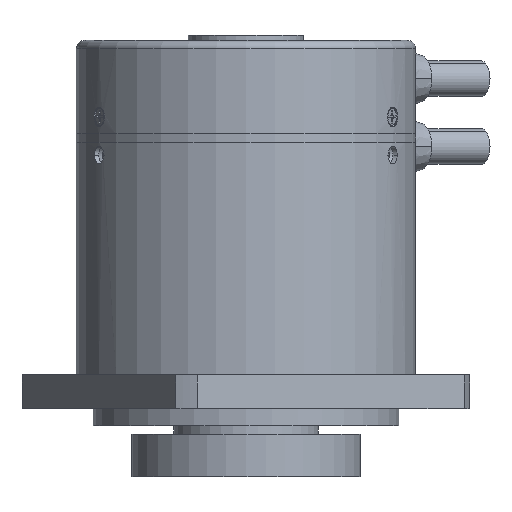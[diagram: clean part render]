
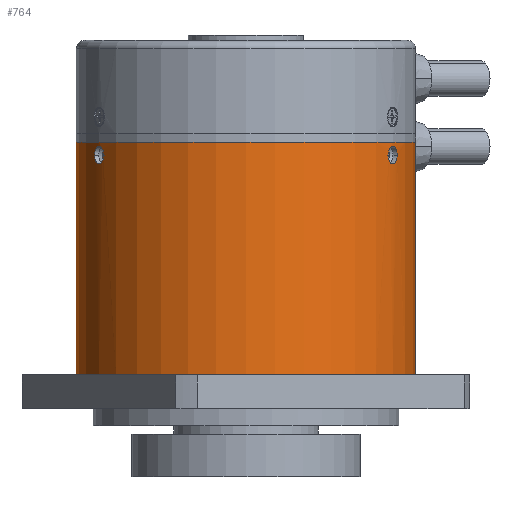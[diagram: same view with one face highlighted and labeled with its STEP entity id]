
A CAD part, front view. The second image highlights one B-rep face of the part: STEP entity #764.
In plain terms, the highlighted cylindrical face has radius 20 mm (diameter 40 mm), a partial arc.
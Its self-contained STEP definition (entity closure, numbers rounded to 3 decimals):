
#764=ADVANCED_FACE('',(#1238,#1239,#1240),#1241,.T.);
#1238=FACE_BOUND('',#2224,.T.);
#1239=FACE_BOUND('',#2225,.T.);
#1240=FACE_OUTER_BOUND('',#2226,.T.);
#1241=CYLINDRICAL_SURFACE('',#2227,20.0);
#2224=EDGE_LOOP('',(#3337,#3338));
#2225=EDGE_LOOP('',(#3339,#3340));
#2226=EDGE_LOOP('',(#3341,#3342,#3343,#3344,#3345,#3346));
#2227=AXIS2_PLACEMENT_3D('',#3347,#3348,#3349);
#3337=ORIENTED_EDGE('',*,*,#6923,.T.);
#3338=ORIENTED_EDGE('',*,*,#6924,.T.);
#3339=ORIENTED_EDGE('',*,*,#6925,.T.);
#3340=ORIENTED_EDGE('',*,*,#6926,.T.);
#3341=ORIENTED_EDGE('',*,*,#6927,.F.);
#3342=ORIENTED_EDGE('',*,*,#6928,.T.);
#3343=ORIENTED_EDGE('',*,*,#6929,.T.);
#3344=ORIENTED_EDGE('',*,*,#6930,.T.);
#3345=ORIENTED_EDGE('',*,*,#6931,.F.);
#3346=ORIENTED_EDGE('',*,*,#6932,.F.);
#3347=CARTESIAN_POINT('',(0.0,0.0,33.4));
#3348=DIRECTION('',(0.0,-0.0,1.0));
#3349=DIRECTION('',(-1.0,0.0,0.0));
#6923=EDGE_CURVE('',#8116,#8117,#8118,.T.);
#6924=EDGE_CURVE('',#8117,#8116,#8119,.T.);
#6925=EDGE_CURVE('',#8120,#8121,#8122,.T.);
#6926=EDGE_CURVE('',#8121,#8120,#8123,.T.);
#6927=EDGE_CURVE('',#8124,#8125,#8126,.T.);
#6928=EDGE_CURVE('',#8124,#8127,#8128,.T.);
#6929=EDGE_CURVE('',#8127,#8129,#8130,.T.);
#6930=EDGE_CURVE('',#8129,#8131,#8132,.T.);
#6931=EDGE_CURVE('',#8133,#8131,#8134,.T.);
#6932=EDGE_CURVE('',#8125,#8133,#8135,.T.);
#8116=VERTEX_POINT('',#10071);
#8117=VERTEX_POINT('',#10072);
#8118=B_SPLINE_CURVE_WITH_KNOTS('',3,(#10073,#10074,#10075,#10076,#10077,#10078,#10079,#10080,#10081,#10082,#10083,#10084,#10085,#10086,#10087,#10088,#10089,#10090,#10091,#10092),.UNSPECIFIED.,.F.,.F.,(4,2,2,2,2,2,2,2,2,4),(0.0,0.,0.001,0.001,0.002,0.002,0.002,0.003,0.003,0.003),.UNSPECIFIED.);
#8119=B_SPLINE_CURVE_WITH_KNOTS('',3,(#10093,#10094,#10095,#10096,#10097,#10098,#10099,#10100,#10101,#10102,#10103,#10104,#10105,#10106,#10107,#10108),.UNSPECIFIED.,.F.,.F.,(4,2,2,2,2,2,2,4),(0.003,0.004,0.004,0.005,0.005,0.005,0.006,0.007),.UNSPECIFIED.);
#8120=VERTEX_POINT('',#10109);
#8121=VERTEX_POINT('',#10110);
#8122=B_SPLINE_CURVE_WITH_KNOTS('',3,(#10111,#10112,#10113,#10114,#10115,#10116,#10117,#10118,#10119,#10120,#10121,#10122,#10123,#10124,#10125,#10126,#10127,#10128,#10129,#10130),.UNSPECIFIED.,.F.,.F.,(4,2,2,2,2,2,2,2,2,4),(0.0,0.,0.001,0.001,0.002,0.002,0.002,0.003,0.003,0.003),.UNSPECIFIED.);
#8123=B_SPLINE_CURVE_WITH_KNOTS('',3,(#10131,#10132,#10133,#10134,#10135,#10136,#10137,#10138,#10139,#10140,#10141,#10142,#10143,#10144,#10145,#10146),.UNSPECIFIED.,.F.,.F.,(4,2,2,2,2,2,2,4),(0.003,0.004,0.004,0.005,0.005,0.005,0.006,0.007),.UNSPECIFIED.);
#8124=VERTEX_POINT('',#10147);
#8125=VERTEX_POINT('',#10148);
#8126=LINE('',#10149,#10150);
#8127=VERTEX_POINT('',#10151);
#8128=CIRCLE('',#10152,20.0);
#8129=VERTEX_POINT('',#10153);
#8130=CIRCLE('',#10154,20.0);
#8131=VERTEX_POINT('',#10155);
#8132=CIRCLE('',#10156,20.0);
#8133=VERTEX_POINT('',#10157);
#8134=LINE('',#10158,#10159);
#8135=CIRCLE('',#10160,20.0);
#10071=CARTESIAN_POINT('',(16.772,-10.896,31.9));
#10072=CARTESIAN_POINT('',(17.822,-9.077,31.9));
#10073=CARTESIAN_POINT('',(16.772,-10.896,31.9));
#10074=CARTESIAN_POINT('',(16.772,-10.896,32.039));
#10075=CARTESIAN_POINT('',(16.787,-10.873,32.175));
#10076=CARTESIAN_POINT('',(16.844,-10.784,32.429));
#10077=CARTESIAN_POINT('',(16.886,-10.718,32.546));
#10078=CARTESIAN_POINT('',(16.989,-10.554,32.739));
#10079=CARTESIAN_POINT('',(17.051,-10.454,32.818));
#10080=CARTESIAN_POINT('',(17.181,-10.238,32.922));
#10081=CARTESIAN_POINT('',(17.252,-10.119,32.95));
#10082=CARTESIAN_POINT('',(17.389,-9.882,32.95));
#10083=CARTESIAN_POINT('',(17.456,-9.762,32.923));
#10084=CARTESIAN_POINT('',(17.579,-9.539,32.818));
#10085=CARTESIAN_POINT('',(17.634,-9.437,32.741));
#10086=CARTESIAN_POINT('',(17.726,-9.264,32.545));
#10087=CARTESIAN_POINT('',(17.761,-9.195,32.429));
#10088=CARTESIAN_POINT('',(17.809,-9.101,32.175));
#10089=CARTESIAN_POINT('',(17.822,-9.077,32.037));
#10090=CARTESIAN_POINT('',(17.822,-9.077,31.9));
#10091=CARTESIAN_POINT('',(17.822,-9.077,31.9));
#10092=CARTESIAN_POINT('',(17.822,-9.077,31.9));
#10093=CARTESIAN_POINT('',(17.822,-9.077,31.9));
#10094=CARTESIAN_POINT('',(17.822,-9.077,31.763));
#10095=CARTESIAN_POINT('',(17.809,-9.101,31.625));
#10096=CARTESIAN_POINT('',(17.761,-9.194,31.372));
#10097=CARTESIAN_POINT('',(17.725,-9.264,31.255));
#10098=CARTESIAN_POINT('',(17.635,-9.435,31.061));
#10099=CARTESIAN_POINT('',(17.58,-9.538,30.983));
#10100=CARTESIAN_POINT('',(17.457,-9.76,30.878));
#10101=CARTESIAN_POINT('',(17.39,-9.879,30.85));
#10102=CARTESIAN_POINT('',(17.252,-10.119,30.85));
#10103=CARTESIAN_POINT('',(17.182,-10.236,30.877));
#10104=CARTESIAN_POINT('',(17.051,-10.454,30.982));
#10105=CARTESIAN_POINT('',(16.989,-10.553,31.06));
#10106=CARTESIAN_POINT('',(16.834,-10.8,31.351));
#10107=CARTESIAN_POINT('',(16.772,-10.896,31.622));
#10108=CARTESIAN_POINT('',(16.772,-10.896,31.9));
#10109=CARTESIAN_POINT('',(-17.822,-9.077,31.9));
#10110=CARTESIAN_POINT('',(-16.772,-10.896,31.9));
#10111=CARTESIAN_POINT('',(-17.822,-9.077,31.9));
#10112=CARTESIAN_POINT('',(-17.822,-9.077,32.039));
#10113=CARTESIAN_POINT('',(-17.809,-9.101,32.175));
#10114=CARTESIAN_POINT('',(-17.761,-9.195,32.429));
#10115=CARTESIAN_POINT('',(-17.725,-9.264,32.546));
#10116=CARTESIAN_POINT('',(-17.634,-9.436,32.739));
#10117=CARTESIAN_POINT('',(-17.579,-9.539,32.818));
#10118=CARTESIAN_POINT('',(-17.457,-9.76,32.922));
#10119=CARTESIAN_POINT('',(-17.389,-9.881,32.95));
#10120=CARTESIAN_POINT('',(-17.252,-10.118,32.95));
#10121=CARTESIAN_POINT('',(-17.182,-10.237,32.923));
#10122=CARTESIAN_POINT('',(-17.051,-10.454,32.818));
#10123=CARTESIAN_POINT('',(-16.99,-10.553,32.741));
#10124=CARTESIAN_POINT('',(-16.885,-10.719,32.545));
#10125=CARTESIAN_POINT('',(-16.844,-10.784,32.429));
#10126=CARTESIAN_POINT('',(-16.787,-10.873,32.175));
#10127=CARTESIAN_POINT('',(-16.772,-10.895,32.037));
#10128=CARTESIAN_POINT('',(-16.772,-10.896,31.9));
#10129=CARTESIAN_POINT('',(-16.772,-10.896,31.9));
#10130=CARTESIAN_POINT('',(-16.772,-10.896,31.9));
#10131=CARTESIAN_POINT('',(-16.772,-10.896,31.9));
#10132=CARTESIAN_POINT('',(-16.772,-10.896,31.763));
#10133=CARTESIAN_POINT('',(-16.787,-10.872,31.625));
#10134=CARTESIAN_POINT('',(-16.843,-10.785,31.372));
#10135=CARTESIAN_POINT('',(-16.885,-10.719,31.255));
#10136=CARTESIAN_POINT('',(-16.988,-10.555,31.061));
#10137=CARTESIAN_POINT('',(-17.05,-10.456,30.983));
#10138=CARTESIAN_POINT('',(-17.181,-10.238,30.878));
#10139=CARTESIAN_POINT('',(-17.251,-10.121,30.85));
#10140=CARTESIAN_POINT('',(-17.389,-9.881,30.85));
#10141=CARTESIAN_POINT('',(-17.456,-9.762,30.877));
#10142=CARTESIAN_POINT('',(-17.579,-9.539,30.982));
#10143=CARTESIAN_POINT('',(-17.634,-9.436,31.06));
#10144=CARTESIAN_POINT('',(-17.77,-9.179,31.351));
#10145=CARTESIAN_POINT('',(-17.822,-9.077,31.622));
#10146=CARTESIAN_POINT('',(-17.822,-9.077,31.9));
#10147=CARTESIAN_POINT('',(-20.0,0.,6.0));
#10148=CARTESIAN_POINT('',(-20.0,0.,33.4));
#10149=CARTESIAN_POINT('',(-20.0,0.,33.4));
#10150=VECTOR('',#13074,1.0);
#10151=CARTESIAN_POINT('',(-17.321,-10.0,6.0));
#10152=AXIS2_PLACEMENT_3D('',#13075,#13076,#13077);
#10153=CARTESIAN_POINT('',(10.0,-17.321,6.0));
#10154=AXIS2_PLACEMENT_3D('',#13078,#13079,#13080);
#10155=CARTESIAN_POINT('',(20.0,0.,6.0));
#10156=AXIS2_PLACEMENT_3D('',#13081,#13082,#13083);
#10157=CARTESIAN_POINT('',(20.0,0.,33.4));
#10158=CARTESIAN_POINT('',(20.0,0.,33.4));
#10159=VECTOR('',#13084,1.0);
#10160=AXIS2_PLACEMENT_3D('',#13085,#13086,#13087);
#13074=DIRECTION('',(0.0,-0.0,1.0));
#13075=CARTESIAN_POINT('',(0.0,0.0,6.0));
#13076=DIRECTION('',(0.0,0.0,1.0));
#13077=DIRECTION('',(1.0,0.0,0.0));
#13078=CARTESIAN_POINT('',(0.0,0.0,6.0));
#13079=DIRECTION('',(0.0,0.0,1.0));
#13080=DIRECTION('',(1.0,0.0,0.0));
#13081=CARTESIAN_POINT('',(0.0,0.0,6.0));
#13082=DIRECTION('',(0.0,0.0,1.0));
#13083=DIRECTION('',(1.0,0.0,0.0));
#13084=DIRECTION('',(0.0,-0.0,-1.0));
#13085=CARTESIAN_POINT('',(0.0,0.0,33.4));
#13086=DIRECTION('',(0.0,0.0,1.0));
#13087=DIRECTION('',(1.0,0.0,0.0));
